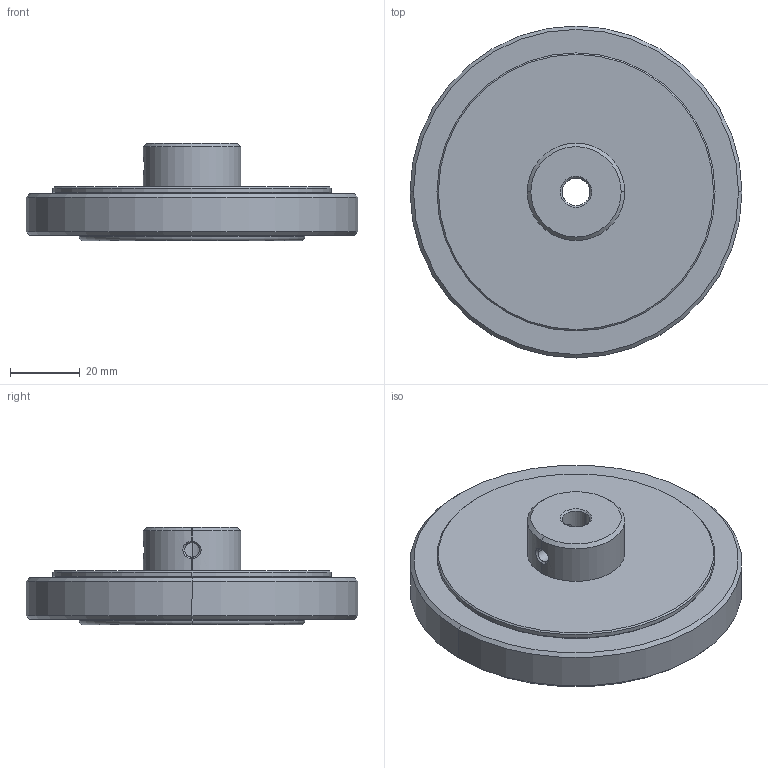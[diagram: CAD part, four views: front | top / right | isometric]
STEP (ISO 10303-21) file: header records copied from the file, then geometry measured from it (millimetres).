
FILE_DESCRIPTION (( 'STEP AP214' ), '1' );
FILE_NAME ('蚾饜极300.STEP', '2021-07-26T08:36:50', ( 'Windows 蚚誧' ), ( '' ), 'SwSTEP 2.0', 'SolidWorks 2020', '' );
FILE_SCHEMA (( 'AUTOMOTIVE_DESIGN' ));
Length unit declared in the file: millimetre
Products named in the file (3): 蚾饜极300; 300(1); 300t(1)
Assembly tree (2 placements, depth 2):
  蚾饜极300
    300(1)
    300t(1)
Bounding box: 95.5 x 95.5 x 28 mm (x, y, z)
Volume: 106541.8 mm3; surface area: 29900.9 mm2
Topology: 2 solids, 2 shells, 55 faces, 127 edges, 77 vertices
Faces by surface type: cylinder 24, cone 18, plane 7, bspline 4, torus 2
Entity records: 3877 total; most frequent: CARTESIAN_POINT 2522, DIRECTION 272, ORIENTED_EDGE 254, EDGE_CURVE 127, AXIS2_PLACEMENT_3D 114, VERTEX_POINT 77, EDGE_LOOP 64, CIRCLE 58
